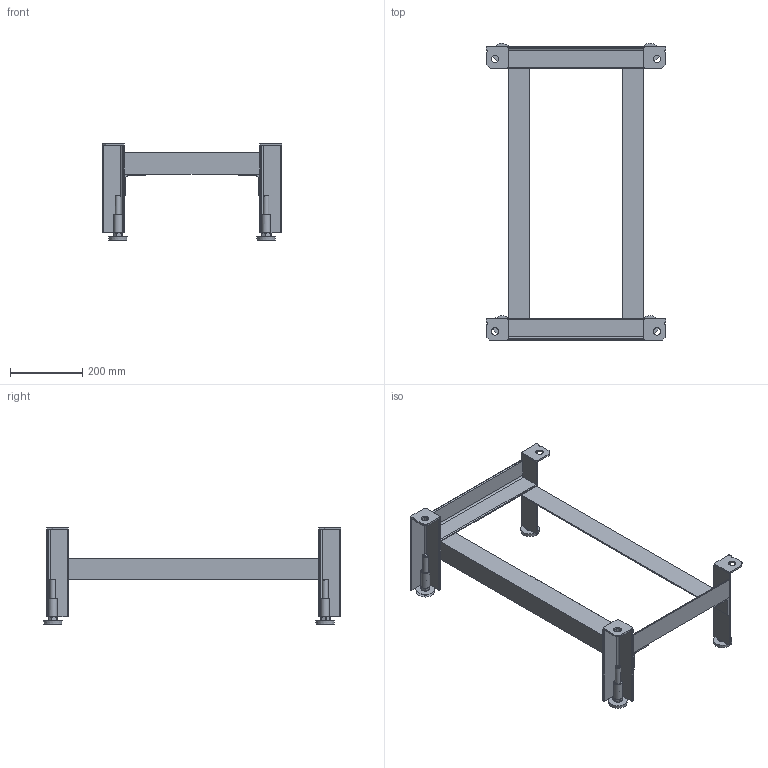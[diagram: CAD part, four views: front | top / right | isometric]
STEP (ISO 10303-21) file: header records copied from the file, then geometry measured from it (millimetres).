
FILE_DESCRIPTION(/* description */ (''),/* implementation_level */ '2;1');
FILE_NAME(/* name */ 'C:\ADSK_DM_WS\CAD_3D\03 Geraete\RIII 45x56x80\Zeichnungen\Traggestell.stp',/* time_stamp */ '2021-11-25T09:20:21+01:00',/* author */ ('CPI'),/* organization */ (''),/* preprocessor_version */ 'ST-DEVELOPER v18.1',/* originating_system */ 'Autodesk Inventor 2022',/* authorisation */ '');
FILE_SCHEMA (('AUTOMOTIVE_DESIGN { 1 0 10303 214 3 1 1 }'));
Length unit declared in the file: millimetre
Products named in the file (1): 2021-03523
Bounding box: 497 x 824.72 x 269 mm (x, y, z)
Volume: 2233494.1 mm3; surface area: 829465.1 mm2
Topology: 1 solids, 1 shells, 371 faces, 969 edges, 609 vertices
Faces by surface type: plane 203, cylinder 104, cone 64
Full cylindrical faces by diameter (mm): 16 x4, 17 x4, 20.5 x4, 30 x4
Entity records: 11868 total; most frequent: CARTESIAN_POINT 2614, ORIENTED_EDGE 1954, DIRECTION 1859, EDGE_CURVE 977, AXIS2_PLACEMENT_3D 670, VERTEX_POINT 609, LINE 519, VECTOR 519
